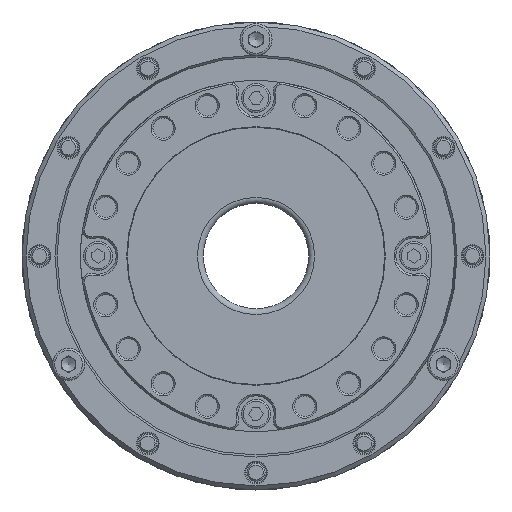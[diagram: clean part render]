
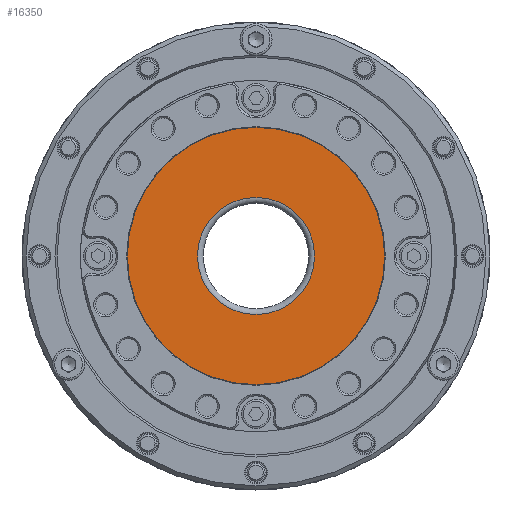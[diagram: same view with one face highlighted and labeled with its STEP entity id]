
A CAD part, front view. The second image highlights one B-rep face of the part: STEP entity #16350.
In plain terms, the highlighted planar face has unit normal (0, -1, 0).
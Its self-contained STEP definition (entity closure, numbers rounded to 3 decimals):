
#89 = CARTESIAN_POINT ( 'NONE',  ( 0., -29.35, 0. ) ) ;
#293 = CARTESIAN_POINT ( 'NONE',  ( 0., -29.35, 0. ) ) ;
#509 = VERTEX_POINT ( 'NONE', #16895 ) ;
#3021 = AXIS2_PLACEMENT_3D ( 'NONE', #293, #14535, #12670 ) ;
#5782 = EDGE_CURVE ( 'NONE', #26059, #26059, #23463, .T. ) ;
#5786 = AXIS2_PLACEMENT_3D ( 'NONE', #89, #12736, #26424 ) ;
#7153 = PLANE ( 'NONE',  #19015 ) ;
#11866 = EDGE_LOOP ( 'NONE', ( #13477 ) ) ;
#12670 = DIRECTION ( 'NONE',  ( 0., 0., -1. ) ) ;
#12736 = DIRECTION ( 'NONE',  ( 0., 1., 0. ) ) ;
#13477 = ORIENTED_EDGE ( 'NONE', *, *, #20330, .T. ) ;
#14535 = DIRECTION ( 'NONE',  ( 0., -1., 0. ) ) ;
#15429 = DIRECTION ( 'NONE',  ( 0., -1., 0. ) ) ;
#16350 = ADVANCED_FACE ( 'NONE', ( #25633, #23915 ), #7153, .T. ) ;
#16393 = EDGE_LOOP ( 'NONE', ( #23190 ) ) ;
#16895 = CARTESIAN_POINT ( 'NONE',  ( 0., -29.35, -22. ) ) ;
#18909 = CIRCLE ( 'NONE', #3021, 22. ) ;
#19015 = AXIS2_PLACEMENT_3D ( 'NONE', #21519, #15429, #21666 ) ;
#20330 = EDGE_CURVE ( 'NONE', #509, #509, #18909, .T. ) ;
#21519 = CARTESIAN_POINT ( 'NONE',  ( 0., -29.35, 0. ) ) ;
#21666 = DIRECTION ( 'NONE',  ( 0., 0., -1. ) ) ;
#21947 = CARTESIAN_POINT ( 'NONE',  ( 0., -29.35, -10. ) ) ;
#23190 = ORIENTED_EDGE ( 'NONE', *, *, #5782, .T. ) ;
#23463 = CIRCLE ( 'NONE', #5786, 10. ) ;
#23915 = FACE_OUTER_BOUND ( 'NONE', #11866, .T. ) ;
#25633 = FACE_BOUND ( 'NONE', #16393, .T. ) ;
#26059 = VERTEX_POINT ( 'NONE', #21947 ) ;
#26424 = DIRECTION ( 'NONE',  ( 0., 0., -1. ) ) ;
